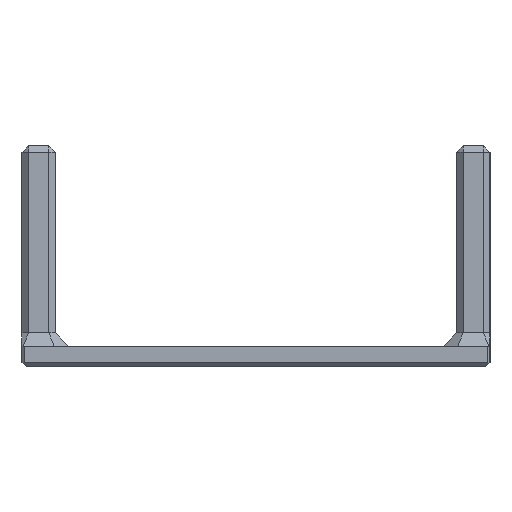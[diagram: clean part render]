
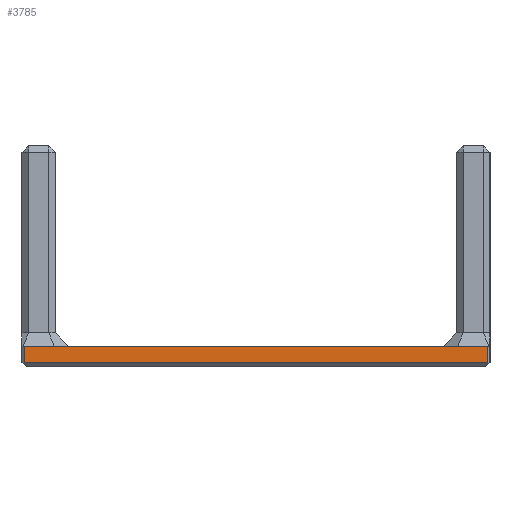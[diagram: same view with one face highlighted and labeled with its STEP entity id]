
A CAD part, left-side view. The second image highlights one B-rep face of the part: STEP entity #3785.
In plain terms, the highlighted planar face has unit normal (-1, 0, 0).
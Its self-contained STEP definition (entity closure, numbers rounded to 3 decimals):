
#79 = VECTOR ( 'NONE', #6666, 1000. ) ;
#689 = LINE ( 'NONE', #18356, #8826 ) ;
#2509 = VERTEX_POINT ( 'NONE', #13628 ) ;
#2531 = CARTESIAN_POINT ( 'NONE',  ( 0., 0.3, 0.6 ) ) ;
#3346 = PLANE ( 'NONE',  #14696 ) ;
#3414 = CARTESIAN_POINT ( 'NONE',  ( 0., 0., 0.6 ) ) ;
#3661 = VERTEX_POINT ( 'NONE', #2531 ) ;
#3785 = ADVANCED_FACE ( 'NONE', ( #13751 ), #3346, .T. ) ;
#3824 = VECTOR ( 'NONE', #19205, 1000. ) ;
#4051 = ORIENTED_EDGE ( 'NONE', *, *, #21473, .T. ) ;
#5148 = VERTEX_POINT ( 'NONE', #16768 ) ;
#5296 = DIRECTION ( 'NONE',  ( 0., 0., -1. ) ) ;
#6286 = EDGE_CURVE ( 'NONE', #2509, #19969, #14171, .T. ) ;
#6622 = DIRECTION ( 'NONE',  ( 0., 0., 1. ) ) ;
#6666 = DIRECTION ( 'NONE',  ( 0., 1., 0. ) ) ;
#7832 = ORIENTED_EDGE ( 'NONE', *, *, #18833, .T. ) ;
#8826 = VECTOR ( 'NONE', #21857, 1000. ) ;
#10773 = CARTESIAN_POINT ( 'NONE',  ( 0., 69.7, 3. ) ) ;
#11811 = CARTESIAN_POINT ( 'NONE',  ( 0., 0., 3. ) ) ;
#12184 = VECTOR ( 'NONE', #5296, 1000. ) ;
#13628 = CARTESIAN_POINT ( 'NONE',  ( 0., 69.7, 3. ) ) ;
#13751 = FACE_OUTER_BOUND ( 'NONE', #16833, .T. ) ;
#14171 = LINE ( 'NONE', #10773, #12184 ) ;
#14696 = AXIS2_PLACEMENT_3D ( 'NONE', #22512, #15503, #6622 ) ;
#15503 = DIRECTION ( 'NONE',  ( -1., 0., 0. ) ) ;
#16768 = CARTESIAN_POINT ( 'NONE',  ( 0., 0.3, 3. ) ) ;
#16833 = EDGE_LOOP ( 'NONE', ( #4051, #7832, #21886, #18251 ) ) ;
#17424 = LINE ( 'NONE', #11811, #79 ) ;
#18251 = ORIENTED_EDGE ( 'NONE', *, *, #6286, .T. ) ;
#18356 = CARTESIAN_POINT ( 'NONE',  ( 0., 0.3, 3. ) ) ;
#18833 = EDGE_CURVE ( 'NONE', #3661, #5148, #689, .T. ) ;
#19205 = DIRECTION ( 'NONE',  ( 0., -1., 0. ) ) ;
#19422 = LINE ( 'NONE', #3414, #3824 ) ;
#19757 = CARTESIAN_POINT ( 'NONE',  ( 0., 69.7, 0.6 ) ) ;
#19969 = VERTEX_POINT ( 'NONE', #19757 ) ;
#21473 = EDGE_CURVE ( 'NONE', #19969, #3661, #19422, .T. ) ;
#21857 = DIRECTION ( 'NONE',  ( 0., 0., 1. ) ) ;
#21886 = ORIENTED_EDGE ( 'NONE', *, *, #22846, .T. ) ;
#22512 = CARTESIAN_POINT ( 'NONE',  ( 0., 0., 3. ) ) ;
#22846 = EDGE_CURVE ( 'NONE', #5148, #2509, #17424, .T. ) ;
